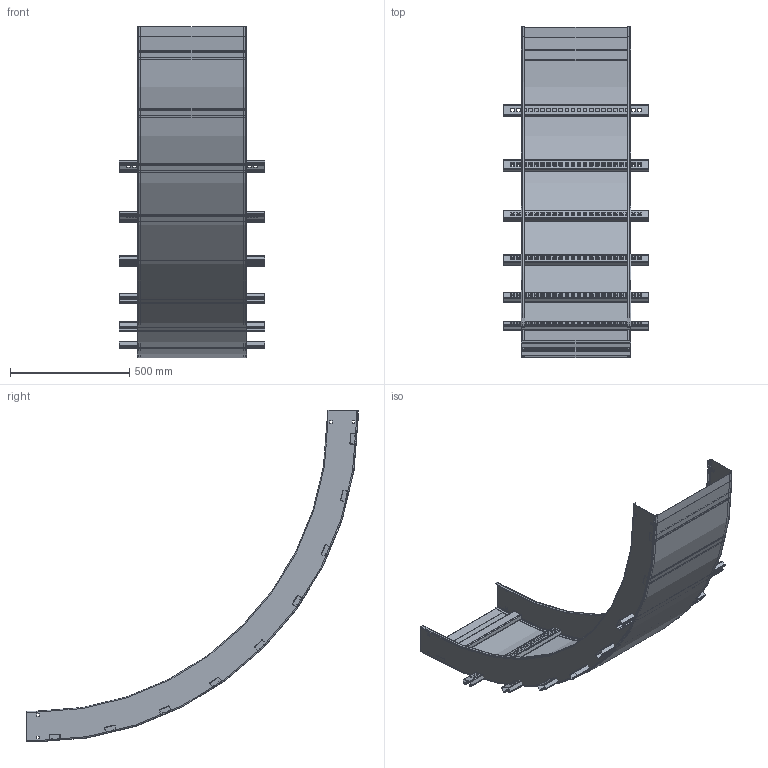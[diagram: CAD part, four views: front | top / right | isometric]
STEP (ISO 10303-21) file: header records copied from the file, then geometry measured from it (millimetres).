
FILE_DESCRIPTION((''),'2;1');
FILE_NAME('AUF518SVI9048_ASM','2010-01-28T',('erouzier'),(''),'PRO/ENGINEER BY PARAMETRIC TECHNOLOGY CORPORATION, 2008510','PRO/ENGINEER BY PARAMETRIC TECHNOLOGY CORPORATION, 2008510','');
FILE_SCHEMA(('CONFIG_CONTROL_DESIGN'));
Length unit declared in the file: inch
Products named in the file (5): CDS001417_5_90_48; CDS002159L18; CDS002159L24-P; CDS003741_90_48_18; AUF518SVI9048_ASM
Assembly tree (12 placements, depth 2):
  AUF518SVI9048_ASM
    CDS001417_5_90_48  x2
    CDS002159L18  x3
    CDS002159L24-P  x6
    CDS003741_90_48_18
Bounding box: 609.6 x 1393.72 x 1392.71 mm (x, y, z)
Volume: 3000244.6 mm3; surface area: 4441084.2 mm2
Topology: 12 solids, 12 shells, 1456 faces, 4224 edges, 2792 vertices
Faces by surface type: plane 795, cylinder 653, torus 8
Entity records: 10183 total; most frequent: DIRECTION 1762, CARTESIAN_POINT 1745, ORIENTED_EDGE 1720, EDGE_CURVE 860, VECTOR 608, LINE 608, AXIS2_PLACEMENT_3D 577, VERTEX_POINT 560
